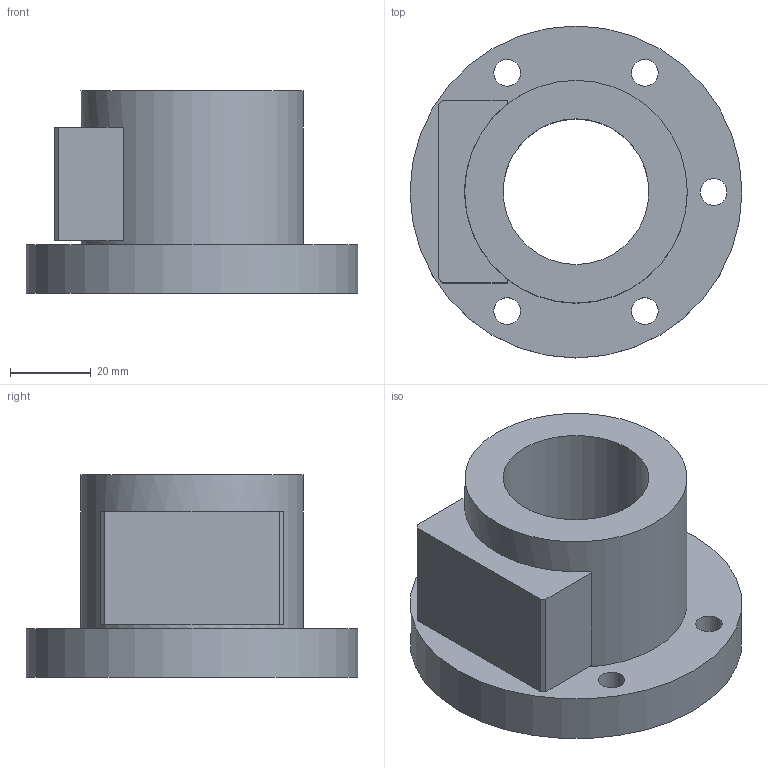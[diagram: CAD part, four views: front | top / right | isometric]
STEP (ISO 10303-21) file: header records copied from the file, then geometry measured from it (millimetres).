
FILE_DESCRIPTION(/* description */ (''),/* implementation_level */ '2;1');
FILE_NAME(/* name */ '36-6B1',/* time_stamp */ '2006-07-31T10:10:29+08:00',/* author */ (''),/* organization */ (''),/* preprocessor_version */ 'ST-DEVELOPER v9',/* originating_system */ 'UGS - NX 4.0',/* authorisation */ '');
FILE_SCHEMA (('CONFIG_CONTROL_DESIGN'));
Length unit declared in the file: millimetre
Products named in the file (1): 36-6B1
Bounding box: 82 x 82 x 50 mm (x, y, z)
Volume: 111261.7 mm3; surface area: 26920.7 mm2
Topology: 1 solids, 1 shells, 30 faces, 67 edges, 46 vertices
Faces by surface type: plane 17, cylinder 13
Full cylindrical faces by diameter (mm): 6.6 x5, 11 x5, 36 x1, 55 x1, 82 x1
Entity records: 860 total; most frequent: DIRECTION 140, CARTESIAN_POINT 123, ORIENTED_EDGE 100, EDGE_LOOP 62, AXIS2_PLACEMENT_3D 59, EDGE_CURVE 50, FACE_BOUND 45, VERTEX_POINT 42
